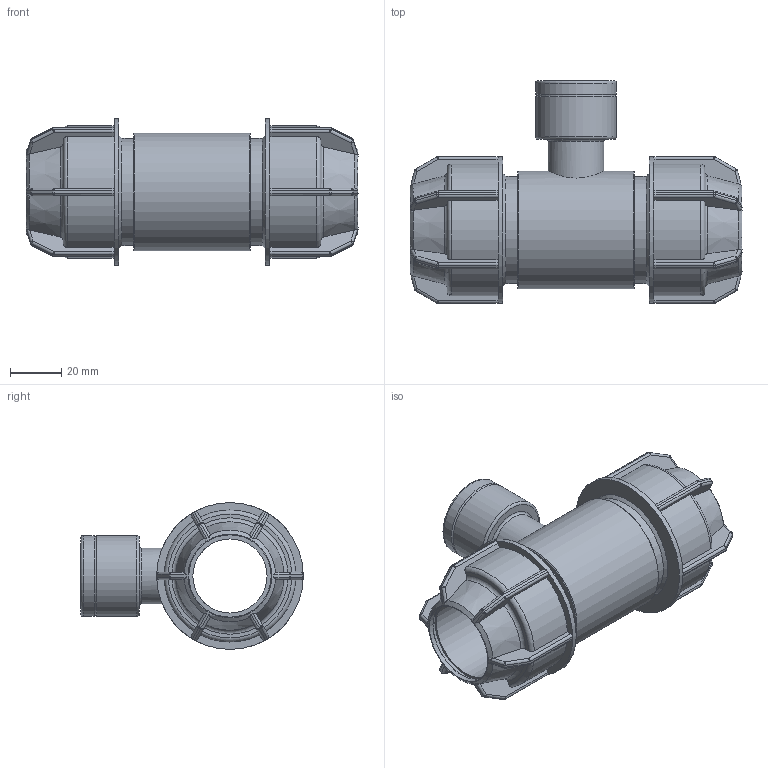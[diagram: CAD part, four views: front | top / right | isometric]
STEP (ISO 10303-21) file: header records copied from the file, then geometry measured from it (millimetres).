
FILE_DESCRIPTION(/* description */ ('PLASSON IRRIFIT TEE FEMALE ADAPTOR 32-1"-32'),/* implementation_level */ '2;1');
FILE_NAME(/* name */ 'C:\Dropbox\KIMPROJECTS-Inventor\99-16-3568-Processing\Silver+MF ISRAEL\041407\041407032010.ipt.stp',/* time_stamp */ '2018-04-09T12:59:55+03:00',/* author */ ('KIM'),/* organization */ (''),/* preprocessor_version */ 'ST-DEVELOPER v15.6',/* originating_system */ 'Autodesk Inventor 2015',/* authorisation */ '');
FILE_SCHEMA (('AUTOMOTIVE_DESIGN { 1 0 10303 214 3 1 1 }'));
Length unit declared in the file: millimetre
Products named in the file (1): 041407032010
Bounding box: 129 x 86.5 x 57 mm (x, y, z)
Volume: 133018.9 mm3; surface area: 46079.1 mm2
Topology: 1 solids, 1 shells, 422 faces, 1002 edges, 575 vertices
Faces by surface type: plane 201, cylinder 123, sphere 48, torus 32, cone 18
Full cylindrical faces by diameter (mm): 16.882 x1, 21.705 x1, 24.117 x1, 28.8 x1, 31.352 x2, 32 x4, 41.6 x2, 45.76 x1, 57 x2
Entity records: 12132 total; most frequent: CARTESIAN_POINT 3169, DIRECTION 1888, ORIENTED_EDGE 1830, EDGE_CURVE 915, AXIS2_PLACEMENT_3D 764, VERTEX_POINT 543, EDGE_LOOP 458, FACE_OUTER_BOUND 414
